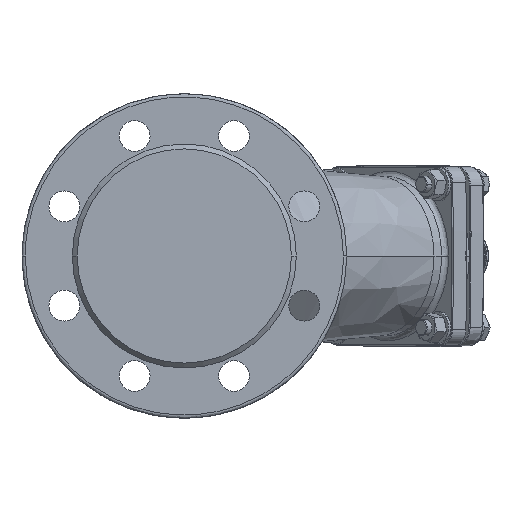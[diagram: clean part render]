
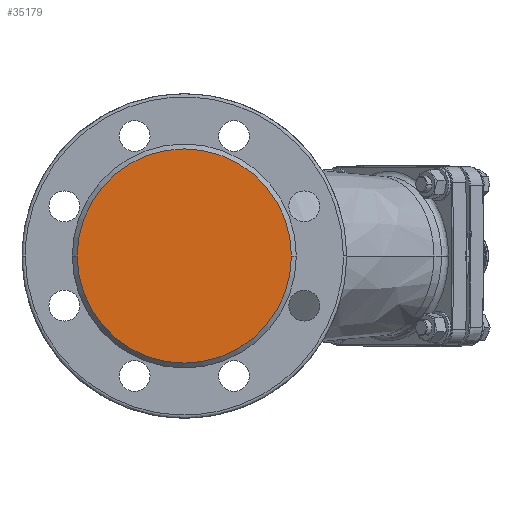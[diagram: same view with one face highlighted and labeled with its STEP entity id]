
A CAD part, left-side view. The second image highlights one B-rep face of the part: STEP entity #35179.
In plain terms, the highlighted planar face has unit normal (-1, 0, 0).
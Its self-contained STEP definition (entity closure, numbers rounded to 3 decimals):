
#1924 = AXIS2_PLACEMENT_3D ( 'NONE', #50473, #46830, #55654 ) ;
#8145 = VERTEX_POINT ( 'NONE', #46237 ) ;
#8166 = PLANE ( 'NONE',  #56464 ) ;
#9950 = VERTEX_POINT ( 'NONE', #27642 ) ;
#11062 = ORIENTED_EDGE ( 'NONE', *, *, #42969, .F. ) ;
#16948 = AXIS2_PLACEMENT_3D ( 'NONE', #36702, #50102, #33056 ) ;
#17053 = CIRCLE ( 'NONE', #16948, 66. ) ;
#27642 = CARTESIAN_POINT ( 'NONE',  ( 0., 66., 0. ) ) ;
#31649 = CIRCLE ( 'NONE', #1924, 66. ) ;
#32281 = EDGE_LOOP ( 'NONE', ( #50980, #11062 ) ) ;
#33056 = DIRECTION ( 'NONE',  ( 0., 1., 0. ) ) ;
#35179 = ADVANCED_FACE ( 'NONE', ( #43480 ), #8166, .F. ) ;
#36702 = CARTESIAN_POINT ( 'NONE',  ( 0., 0., 0. ) ) ;
#38836 = DIRECTION ( 'NONE',  ( 1., 0., 0. ) ) ;
#42969 = EDGE_CURVE ( 'NONE', #8145, #9950, #31649, .T. ) ;
#43480 = FACE_OUTER_BOUND ( 'NONE', #32281, .T. ) ;
#44578 = DIRECTION ( 'NONE',  ( 0., 0., -1. ) ) ;
#46237 = CARTESIAN_POINT ( 'NONE',  ( 0., -66., 0. ) ) ;
#46830 = DIRECTION ( 'NONE',  ( 1., 0., 0. ) ) ;
#47278 = CARTESIAN_POINT ( 'NONE',  ( 0., 0., 0. ) ) ;
#48514 = EDGE_CURVE ( 'NONE', #9950, #8145, #17053, .T. ) ;
#50102 = DIRECTION ( 'NONE',  ( 1., 0., 0. ) ) ;
#50473 = CARTESIAN_POINT ( 'NONE',  ( 0., 0., 0. ) ) ;
#50980 = ORIENTED_EDGE ( 'NONE', *, *, #48514, .F. ) ;
#55654 = DIRECTION ( 'NONE',  ( 0., 1., 0. ) ) ;
#56464 = AXIS2_PLACEMENT_3D ( 'NONE', #47278, #38836, #44578 ) ;
